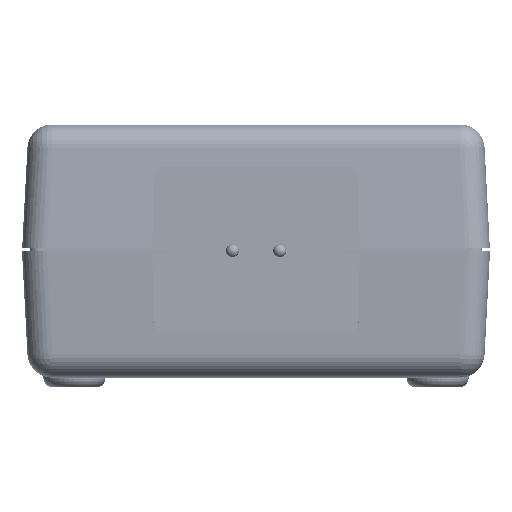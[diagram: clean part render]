
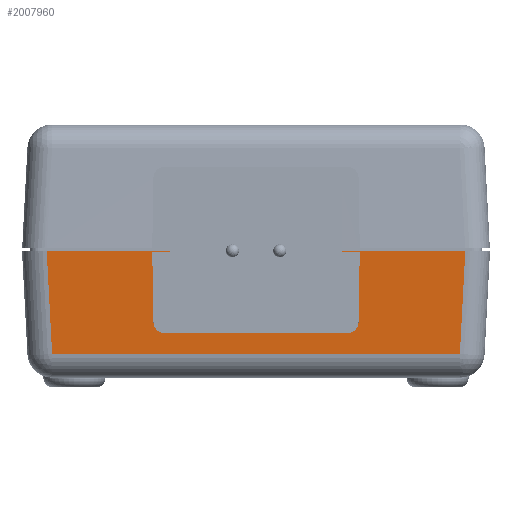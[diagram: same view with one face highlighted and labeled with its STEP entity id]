
A CAD part, left-side view. The second image highlights one B-rep face of the part: STEP entity #2007960.
In plain terms, the highlighted planar face has unit normal (-0.999, 0, -0.052).
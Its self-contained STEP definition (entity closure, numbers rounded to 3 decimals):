
#37510=CARTESIAN_POINT('',(47.412,115.175,30.));
#37520=VERTEX_POINT('',#37510);
#37550=CARTESIAN_POINT('',(47.412,115.175,30.));
#37560=DIRECTION('',(0.,1.,0.));
#37570=VECTOR('',#37560,1.);
#37580=LINE('',#37550,#37570);
#37590=CARTESIAN_POINT('',(47.412,137.566,30.));
#37600=VERTEX_POINT('',#37590);
#37610=EDGE_CURVE('',#37520,#37600,#37580,.T.);
#1366020=CARTESIAN_POINT('',(47.423,115.174,
29.786));
#1366030=VERTEX_POINT('',#1366020);
#1366060=CARTESIAN_POINT('',(47.412,115.176,30.));
#1366070=DIRECTION('',(0.052,-0.009,
-0.999));
#1366080=VECTOR('',#1366070,1.);
#1366090=LINE('',#1366060,#1366080);
#1366100=EDGE_CURVE('',#37520,#1366030,#1366090,.T.);
#1368640=CARTESIAN_POINT('',(47.412,83.883,30.));
#1368650=VERTEX_POINT('',#1368640);
#1368680=CARTESIAN_POINT('',(47.423,83.885,
29.786));
#1368690=DIRECTION('',(-0.052,-0.009,
0.999));
#1368700=VECTOR('',#1368690,1.);
#1368710=LINE('',#1368680,#1368700);
#1368720=CARTESIAN_POINT('',(47.423,83.885,
29.786));
#1368730=VERTEX_POINT('',#1368720);
#1368740=EDGE_CURVE('',#1368730,#1368650,#1368710,.T.);
#1397330=CARTESIAN_POINT('',(47.412,61.493,30.));
#1397340=VERTEX_POINT('',#1397330);
#1397370=CARTESIAN_POINT('',(47.412,61.493,30.));
#1397380=DIRECTION('',(0.,1.,0.));
#1397390=VECTOR('',#1397380,1.);
#1397400=LINE('',#1397370,#1397390);
#1397410=EDGE_CURVE('',#1397340,#1368650,#1397400,.T.);
#1472560=CARTESIAN_POINT('',(48.394,62.475,
11.264));
#1472570=VERTEX_POINT('',#1472560);
#1472760=CARTESIAN_POINT('',(48.394,62.475,
11.264));
#1472770=DIRECTION('',(0.,1.,0.));
#1472780=VECTOR('',#1472770,1.);
#1472790=LINE('',#1472760,#1472780);
#1472800=CARTESIAN_POINT('',(48.394,136.584,
11.264));
#1472810=VERTEX_POINT('',#1472800);
#1472820=EDGE_CURVE('',#1472570,#1472810,#1472790,.T.);
#2007040=CARTESIAN_POINT('',(47.412,137.566,30.));
#2007050=DIRECTION('',(0.052,-0.052,
-0.997));
#2007060=VECTOR('',#2007050,1.);
#2007070=LINE('',#2007040,#2007060);
#2007080=EDGE_CURVE('',#37600,#1472810,#2007070,.T.);
#2007130=CARTESIAN_POINT('',(47.412,142.059,30.));
#2007140=DIRECTION('',(-0.999,0.,-0.052));
#2007150=DIRECTION('',(0.,1.,0.));
#2007160=AXIS2_PLACEMENT_3D('',#2007130,#2007140,#2007150);
#2007170=PLANE('',#2007160);
#2007180=ORIENTED_EDGE('',*,*,#37610,.T.);
#2007190=ORIENTED_EDGE('',*,*,#1366100,.F.);
#2007200=CARTESIAN_POINT('',(47.423,118.386,
29.786));
#2007210=DIRECTION('',(0.,-1.,0.));
#2007220=VECTOR('',#2007210,1.);
#2007230=LINE('',#2007200,#2007220);
#2007240=CARTESIAN_POINT('',(47.423,118.386,
29.786));
#2007250=VERTEX_POINT('',#2007240);
#2007260=EDGE_CURVE('',#2007250,#1366030,#2007230,.T.);
#2007270=ORIENTED_EDGE('',*,*,#2007260,.T.);
#2007280=CARTESIAN_POINT('',(48.09,118.163,
17.048));
#2007290=DIRECTION('',(-0.052,0.017,
0.998));
#2007300=VECTOR('',#2007290,1.);
#2007310=LINE('',#2007280,#2007300);
#2007320=CARTESIAN_POINT('',(48.09,118.164,
17.056));
#2007330=VERTEX_POINT('',#2007320);
#2007340=EDGE_CURVE('',#2007330,#2007250,#2007310,.T.);
#2007350=ORIENTED_EDGE('',*,*,#2007340,.T.);
#2007360=CARTESIAN_POINT('',(48.193,116.164,15.1));
#2007370=CARTESIAN_POINT('',(48.193,116.379,15.1));
#2007380=CARTESIAN_POINT('',(48.189,116.786,
15.166));
#2007390=CARTESIAN_POINT('',(48.174,117.351,
15.449));
#2007400=CARTESIAN_POINT('',(48.151,117.797,
15.886));
#2007410=CARTESIAN_POINT('',(48.122,118.091,
16.45));
#2007420=CARTESIAN_POINT('',(48.101,118.16,
16.842));
#2007430=CARTESIAN_POINT('',(48.09,118.163,
17.048));
#2007440=B_SPLINE_CURVE_WITH_KNOTS('',3,(#2007360,#2007370,#2007380,
#2007390,#2007400,#2007410,#2007420,#2007430),.UNSPECIFIED.,.F.,.F.,(4,1
,1,1,1,4),(0.,0.2,0.4,0.6,0.8,1.),.UNSPECIFIED.);
#2007450=CARTESIAN_POINT('',(48.193,116.164,15.1));
#2007460=VERTEX_POINT('',#2007450);
#2007470=EDGE_CURVE('',#2007460,#2007330,#2007440,.T.);
#2007480=ORIENTED_EDGE('',*,*,#2007470,.T.);
#2007490=CARTESIAN_POINT('',(48.193,82.895,15.1));
#2007500=DIRECTION('',(0.,1.,0.));
#2007510=VECTOR('',#2007500,1.);
#2007520=LINE('',#2007490,#2007510);
#2007530=CARTESIAN_POINT('',(48.193,82.895,15.1));
#2007540=VERTEX_POINT('',#2007530);
#2007550=EDGE_CURVE('',#2007540,#2007460,#2007520,.T.);
#2007560=ORIENTED_EDGE('',*,*,#2007550,.T.);
#2007570=CARTESIAN_POINT('',(48.09,80.896,
17.048));
#2007580=CARTESIAN_POINT('',(48.101,80.899,
16.842));
#2007590=CARTESIAN_POINT('',(48.122,80.968,
16.45));
#2007600=CARTESIAN_POINT('',(48.151,81.262,
15.886));
#2007610=CARTESIAN_POINT('',(48.174,81.709,
15.449));
#2007620=CARTESIAN_POINT('',(48.189,82.273,
15.166));
#2007630=CARTESIAN_POINT('',(48.193,82.68,15.1));
#2007640=CARTESIAN_POINT('',(48.193,82.895,15.1));
#2007650=B_SPLINE_CURVE_WITH_KNOTS('',3,(#2007570,#2007580,#2007590,
#2007600,#2007610,#2007620,#2007630,#2007640),.UNSPECIFIED.,.F.,.F.,(4,1
,1,1,1,4),(0.,0.2,0.4,0.6,0.8,1.),.UNSPECIFIED.);
#2007660=CARTESIAN_POINT('',(48.09,80.895,
17.056));
#2007670=VERTEX_POINT('',#2007660);
#2007680=EDGE_CURVE('',#2007670,#2007540,#2007650,.T.);
#2007690=ORIENTED_EDGE('',*,*,#2007680,.T.);
#2007700=CARTESIAN_POINT('',(47.423,80.673,
29.786));
#2007710=DIRECTION('',(0.052,0.017,
-0.998));
#2007720=VECTOR('',#2007710,1.);
#2007730=LINE('',#2007700,#2007720);
#2007740=CARTESIAN_POINT('',(47.423,80.673,
29.786));
#2007750=VERTEX_POINT('',#2007740);
#2007760=EDGE_CURVE('',#2007750,#2007670,#2007730,.T.);
#2007770=ORIENTED_EDGE('',*,*,#2007760,.T.);
#2007780=CARTESIAN_POINT('',(47.423,83.884,
29.786));
#2007790=DIRECTION('',(0.,-1.,0.));
#2007800=VECTOR('',#2007790,1.);
#2007810=LINE('',#2007780,#2007800);
#2007820=EDGE_CURVE('',#1368730,#2007750,#2007810,.T.);
#2007830=ORIENTED_EDGE('',*,*,#2007820,.T.);
#2007840=ORIENTED_EDGE('',*,*,#1368740,.F.);
#2007850=ORIENTED_EDGE('',*,*,#1397410,.T.);
#2007860=CARTESIAN_POINT('',(48.394,62.475,
11.264));
#2007870=DIRECTION('',(-0.052,-0.052,
0.997));
#2007880=VECTOR('',#2007870,1.);
#2007890=LINE('',#2007860,#2007880);
#2007900=EDGE_CURVE('',#1472570,#1397340,#2007890,.T.);
#2007910=ORIENTED_EDGE('',*,*,#2007900,.T.);
#2007920=ORIENTED_EDGE('',*,*,#1472820,.F.);
#2007930=ORIENTED_EDGE('',*,*,#2007080,.T.);
#2007940=EDGE_LOOP('',(#2007930,#2007920,#2007910,#2007850,#2007840,
#2007830,#2007770,#2007690,#2007560,#2007480,#2007350,#2007270,#2007190,
#2007180));
#2007950=FACE_OUTER_BOUND('',#2007940,.T.);
#2007960=ADVANCED_FACE('',(#2007950),#2007170,.T.);
